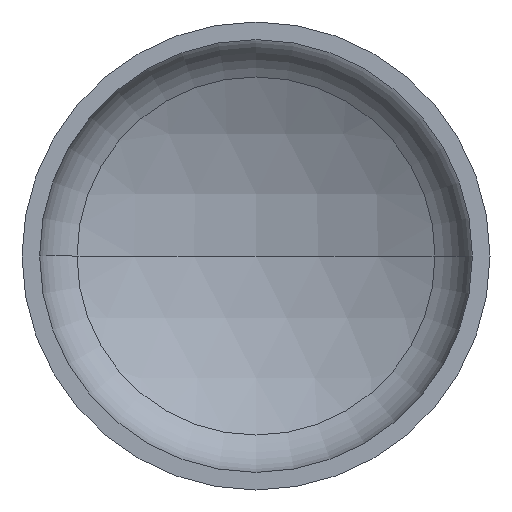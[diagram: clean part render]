
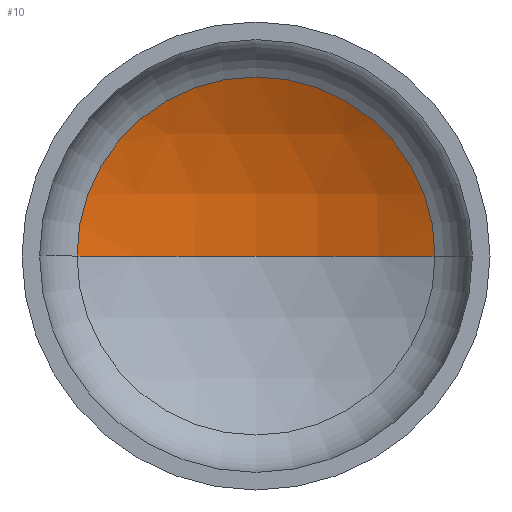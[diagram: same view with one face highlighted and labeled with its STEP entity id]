
A CAD part, front view. The second image highlights one B-rep face of the part: STEP entity #10.
In plain terms, the highlighted spherical face has radius 1360 mm.
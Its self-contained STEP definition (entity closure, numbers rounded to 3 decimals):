
#9 = AXIS2_PLACEMENT_3D ( 'NONE', #330, #187, #347 ) ;
#10 = ADVANCED_FACE ( 'NONE', ( #179 ), #411, .F. ) ;
#26 = ORIENTED_EDGE ( 'NONE', *, *, #200, .T. ) ;
#27 = EDGE_LOOP ( 'NONE', ( #134, #101, #26 ) ) ;
#37 = AXIS2_PLACEMENT_3D ( 'NONE', #387, #385, #171 ) ;
#38 = CARTESIAN_POINT ( 'NONE',  ( 0., 348.348, 0. ) ) ;
#42 = AXIS2_PLACEMENT_3D ( 'NONE', #38, #189, #192 ) ;
#52 = VERTEX_POINT ( 'NONE', #226 ) ;
#86 = VERTEX_POINT ( 'NONE', #254 ) ;
#87 = AXIS2_PLACEMENT_3D ( 'NONE', #289, #260, #287 ) ;
#101 = ORIENTED_EDGE ( 'NONE', *, *, #207, .T. ) ;
#114 = VERTEX_POINT ( 'NONE', #353 ) ;
#134 = ORIENTED_EDGE ( 'NONE', *, *, #377, .F. ) ;
#171 = DIRECTION ( 'NONE',  ( -1., 0., 0. ) ) ;
#179 = FACE_OUTER_BOUND ( 'NONE', #27, .T. ) ;
#187 = DIRECTION ( 'NONE',  ( 0., 0., 1. ) ) ;
#189 = DIRECTION ( 'NONE',  ( 0., -1., 0. ) ) ;
#192 = DIRECTION ( 'NONE',  ( 1., 0., 0. ) ) ;
#200 = EDGE_CURVE ( 'NONE', #52, #86, #269, .T. ) ;
#207 = EDGE_CURVE ( 'NONE', #114, #52, #393, .T. ) ;
#226 = CARTESIAN_POINT ( 'NONE',  ( 650.327, 348.348, 0. ) ) ;
#254 = CARTESIAN_POINT ( 'NONE',  ( -650.327, 348.348, 0. ) ) ;
#260 = DIRECTION ( 'NONE',  ( 0., 0., -1. ) ) ;
#269 = CIRCLE ( 'NONE', #42, 650.327 ) ;
#287 = DIRECTION ( 'NONE',  ( -1., 0., 0. ) ) ;
#289 = CARTESIAN_POINT ( 'NONE',  ( 0., -846.087, 0. ) ) ;
#330 = CARTESIAN_POINT ( 'NONE',  ( 0., -846.087, 0. ) ) ;
#347 = DIRECTION ( 'NONE',  ( 1., 0., 0. ) ) ;
#353 = CARTESIAN_POINT ( 'NONE',  ( 0., 513.913, 0. ) ) ;
#365 = CIRCLE ( 'NONE', #9, 1360. ) ;
#377 = EDGE_CURVE ( 'NONE', #114, #86, #365, .T. ) ;
#385 = DIRECTION ( 'NONE',  ( 0., 0., -1. ) ) ;
#387 = CARTESIAN_POINT ( 'NONE',  ( 0., -846.087, 0. ) ) ;
#393 = CIRCLE ( 'NONE', #37, 1360. ) ;
#411 = SPHERICAL_SURFACE ( 'NONE', #87, 1360. ) ;
